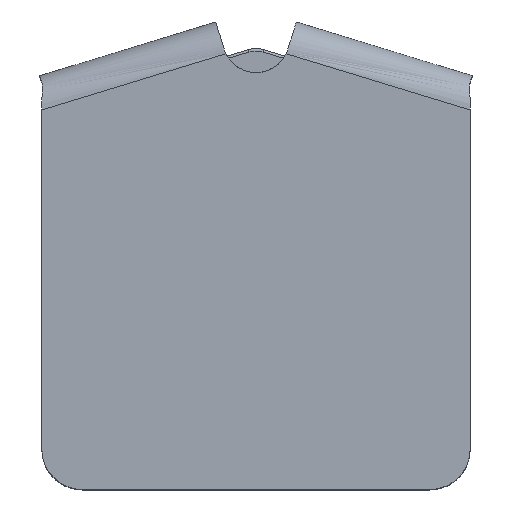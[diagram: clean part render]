
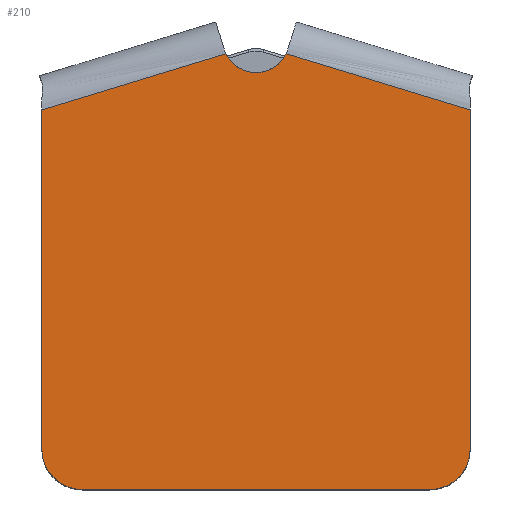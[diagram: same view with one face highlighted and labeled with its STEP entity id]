
A CAD part, top view. The second image highlights one B-rep face of the part: STEP entity #210.
In plain terms, the highlighted planar face has unit normal (0, 0, 1).
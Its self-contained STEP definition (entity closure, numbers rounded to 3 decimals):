
#81=B_SPLINE_CURVE_WITH_KNOTS('',1,(#3409,#3410),.UNSPECIFIED.,.F.,.F.,
(2,2),(-253.527,0.),.UNSPECIFIED.);
#87=B_SPLINE_CURVE_WITH_KNOTS('',1,(#3421,#3422),.UNSPECIFIED.,.F.,.F.,
(2,2),(-260.,0.),.UNSPECIFIED.);
#91=B_SPLINE_CURVE_WITH_KNOTS('',1,(#3429,#3430),.UNSPECIFIED.,.F.,.F.,
(2,2),(-253.527,0.),.UNSPECIFIED.);
#104=B_SPLINE_CURVE_WITH_KNOTS('',1,(#3489,#3490),.UNSPECIFIED.,.F.,.F.,
(2,2),(0.,143.809),.UNSPECIFIED.);
#122=B_SPLINE_CURVE_WITH_KNOTS('',1,(#3623,#3624),.UNSPECIFIED.,.F.,.F.,
(2,2),(0.,143.809),.UNSPECIFIED.);
#210=ADVANCED_FACE('',(#292),#1213,.T.);
#292=FACE_OUTER_BOUND('',#374,.T.);
#374=EDGE_LOOP('',(#606,#607,#608,#609,#610,#611,#612,#613));
#606=ORIENTED_EDGE('',*,*,#903,.F.);
#607=ORIENTED_EDGE('',*,*,#890,.T.);
#608=ORIENTED_EDGE('',*,*,#920,.F.);
#609=ORIENTED_EDGE('',*,*,#886,.T.);
#610=ORIENTED_EDGE('',*,*,#943,.F.);
#611=ORIENTED_EDGE('',*,*,#900,.T.);
#612=ORIENTED_EDGE('',*,*,#905,.F.);
#613=ORIENTED_EDGE('',*,*,#896,.T.);
#886=EDGE_CURVE('',#1135,#1136,#1033,.T.);
#890=EDGE_CURVE('',#1139,#1140,#81,.T.);
#896=EDGE_CURVE('',#1146,#1145,#87,.T.);
#900=EDGE_CURVE('',#1150,#1149,#91,.T.);
#903=EDGE_CURVE('',#1139,#1145,#1036,.T.);
#905=EDGE_CURVE('',#1146,#1149,#1038,.T.);
#920=EDGE_CURVE('',#1135,#1140,#104,.T.);
#943=EDGE_CURVE('',#1150,#1136,#122,.T.);
#1033=(
BOUNDED_CURVE()
B_SPLINE_CURVE(2,(#3395,#3396,#3397,#3398,#3399),.UNSPECIFIED.,.F.,.F.)
B_SPLINE_CURVE_WITH_KNOTS((3,2,3),(-55.873,-27.936,
0.),.UNSPECIFIED.)
CURVE()
GEOMETRIC_REPRESENTATION_ITEM()
RATIONAL_B_SPLINE_CURVE((1.,0.848,1.,0.848,1.))
REPRESENTATION_ITEM('')
);
#1036=(
BOUNDED_CURVE()
B_SPLINE_CURVE(2,(#3436,#3437,#3438),.UNSPECIFIED.,.F.,.F.)
B_SPLINE_CURVE_WITH_KNOTS((3,3),(0.,47.124),.UNSPECIFIED.)
CURVE()
GEOMETRIC_REPRESENTATION_ITEM()
RATIONAL_B_SPLINE_CURVE((1.,0.707,1.))
REPRESENTATION_ITEM('')
);
#1038=(
BOUNDED_CURVE()
B_SPLINE_CURVE(2,(#3442,#3443,#3444),.UNSPECIFIED.,.F.,.F.)
B_SPLINE_CURVE_WITH_KNOTS((3,3),(0.,47.124),.UNSPECIFIED.)
CURVE()
GEOMETRIC_REPRESENTATION_ITEM()
RATIONAL_B_SPLINE_CURVE((1.,0.707,1.))
REPRESENTATION_ITEM('')
);
#1135=VERTEX_POINT('',#3235);
#1136=VERTEX_POINT('',#3236);
#1139=VERTEX_POINT('',#3239);
#1140=VERTEX_POINT('',#3240);
#1145=VERTEX_POINT('',#3245);
#1146=VERTEX_POINT('',#3246);
#1149=VERTEX_POINT('',#3249);
#1150=VERTEX_POINT('',#3250);
#1213=PLANE('',#1309);
#1309=AXIS2_PLACEMENT_3D('',#2337,#1348,$);
#1348=DIRECTION('',(0.,0.,1.));
#2337=CARTESIAN_POINT('',(-192.06,212.129,0.));
#3235=CARTESIAN_POINT('',(22.475,179.512,0.));
#3236=CARTESIAN_POINT('',(-22.475,179.512,0.));
#3239=CARTESIAN_POINT('',(160.,-116.061,0.));
#3240=CARTESIAN_POINT('',(160.,137.466,0.));
#3245=CARTESIAN_POINT('',(130.,-146.061,0.));
#3246=CARTESIAN_POINT('',(-130.,-146.061,0.));
#3249=CARTESIAN_POINT('',(-160.,-116.061,0.));
#3250=CARTESIAN_POINT('',(-160.,137.466,0.));
#3395=CARTESIAN_POINT('',(22.475,179.512,0.));
#3396=CARTESIAN_POINT('',(15.629,165.461,0.));
#3397=CARTESIAN_POINT('',(0.,165.461,0.));
#3398=CARTESIAN_POINT('',(-15.629,165.461,0.));
#3399=CARTESIAN_POINT('',(-22.475,179.512,0.));
#3409=CARTESIAN_POINT('',(160.,-116.061,0.));
#3410=CARTESIAN_POINT('',(160.,137.466,0.));
#3421=CARTESIAN_POINT('',(-130.,-146.061,0.));
#3422=CARTESIAN_POINT('',(130.,-146.061,0.));
#3429=CARTESIAN_POINT('',(-160.,137.466,0.));
#3430=CARTESIAN_POINT('',(-160.,-116.061,0.));
#3436=CARTESIAN_POINT('',(160.,-116.061,0.));
#3437=CARTESIAN_POINT('',(160.,-146.061,0.));
#3438=CARTESIAN_POINT('',(130.,-146.061,0.));
#3442=CARTESIAN_POINT('',(-130.,-146.061,0.));
#3443=CARTESIAN_POINT('',(-160.,-146.061,0.));
#3444=CARTESIAN_POINT('',(-160.,-116.061,0.));
#3489=CARTESIAN_POINT('',(22.475,179.512,0.));
#3490=CARTESIAN_POINT('',(160.,137.466,0.));
#3623=CARTESIAN_POINT('',(-160.,137.466,0.));
#3624=CARTESIAN_POINT('',(-22.475,179.512,0.));
